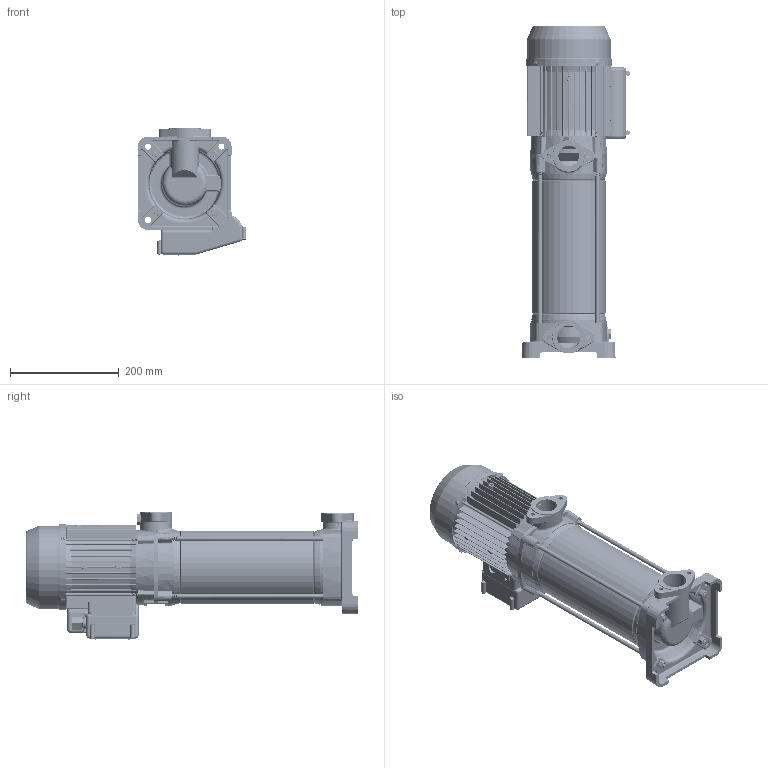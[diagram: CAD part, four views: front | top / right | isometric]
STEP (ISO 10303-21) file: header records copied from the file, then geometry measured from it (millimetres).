
FILE_DESCRIPTION (( 'STEP AP203' ), '1' );
FILE_NAME ('MCXV_3-10-FM.STEP', '2022-08-02T13:16:40', ( '' ), ( '' ), 'SwSTEP 2.0', 'SolidWorks 2021', '' );
FILE_SCHEMA (( 'CONFIG_CONTROL_DESIGN' ));
Length unit declared in the file: millimetre
Products named in the file (1): MCXV_3-10-FM
Bounding box: 198.8 x 610.5 x 236 mm (x, y, z)
Volume: 8179805 mm3; surface area: 831346.2 mm2
Topology: 1 solids, 47 shells, 4393 faces, 11951 edges, 7495 vertices
Faces by surface type: plane 1743, cylinder 1483, cone 430, bspline 350, torus 319, sphere 68
Entity records: 200877 total; most frequent: CARTESIAN_POINT 97100, ORIENTED_EDGE 23672, DIRECTION 19586, EDGE_CURVE 11836, VERTEX_POINT 7480, AXIS2_PLACEMENT_3D 7239, VECTOR 5108, LINE 5108
